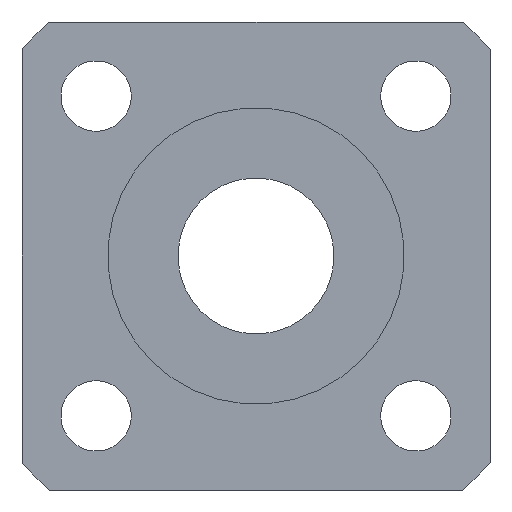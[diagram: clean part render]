
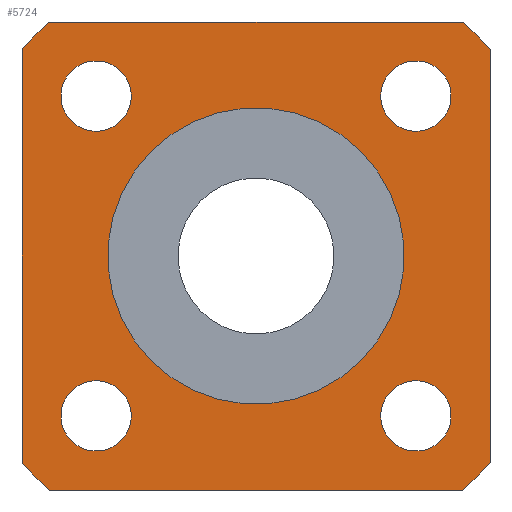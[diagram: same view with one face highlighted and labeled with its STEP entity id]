
A CAD part, left-side view. The second image highlights one B-rep face of the part: STEP entity #5724.
In plain terms, the highlighted planar face has unit normal (-1, 0, 0).
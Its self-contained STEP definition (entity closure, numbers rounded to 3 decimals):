
#109=CIRCLE('',#6074,20.);
#110=CIRCLE('',#6076,20.);
#111=CIRCLE('',#6078,20.);
#121=CIRCLE('',#6093,9.5);
#123=CIRCLE('',#6098,20.);
#124=CIRCLE('',#6099,2.25);
#125=CIRCLE('',#6100,2.25);
#126=CIRCLE('',#6101,2.25);
#127=CIRCLE('',#6102,2.25);
#536=ORIENTED_EDGE('',*,*,#2184,.T.);
#537=ORIENTED_EDGE('',*,*,#2167,.F.);
#538=ORIENTED_EDGE('',*,*,#2185,.T.);
#539=ORIENTED_EDGE('',*,*,#2170,.F.);
#540=ORIENTED_EDGE('',*,*,#2186,.T.);
#541=ORIENTED_EDGE('',*,*,#2187,.F.);
#542=ORIENTED_EDGE('',*,*,#2188,.T.);
#543=ORIENTED_EDGE('',*,*,#2165,.F.);
#544=ORIENTED_EDGE('',*,*,#2189,.T.);
#545=ORIENTED_EDGE('',*,*,#2190,.T.);
#546=ORIENTED_EDGE('',*,*,#2191,.T.);
#547=ORIENTED_EDGE('',*,*,#2192,.T.);
#548=ORIENTED_EDGE('',*,*,#2182,.T.);
#2165=EDGE_CURVE('',#2991,#2992,#109,.T.);
#2167=EDGE_CURVE('',#2993,#2994,#110,.T.);
#2170=EDGE_CURVE('',#2995,#2996,#111,.T.);
#2182=EDGE_CURVE('',#3006,#3006,#121,.T.);
#2184=EDGE_CURVE('',#2991,#2994,#3496,.T.);
#2185=EDGE_CURVE('',#2993,#2996,#3497,.T.);
#2186=EDGE_CURVE('',#2995,#3008,#3498,.T.);
#2187=EDGE_CURVE('',#3009,#3008,#123,.T.);
#2188=EDGE_CURVE('',#3009,#2992,#3499,.T.);
#2189=EDGE_CURVE('',#3010,#3010,#124,.T.);
#2190=EDGE_CURVE('',#3011,#3011,#125,.T.);
#2191=EDGE_CURVE('',#3012,#3012,#126,.T.);
#2192=EDGE_CURVE('',#3013,#3013,#127,.T.);
#2991=VERTEX_POINT('',#9000);
#2992=VERTEX_POINT('',#9002);
#2993=VERTEX_POINT('',#9006);
#2994=VERTEX_POINT('',#9007);
#2995=VERTEX_POINT('',#9012);
#2996=VERTEX_POINT('',#9013);
#3006=VERTEX_POINT('',#9040);
#3008=VERTEX_POINT('',#9049);
#3009=VERTEX_POINT('',#9051);
#3010=VERTEX_POINT('',#9054);
#3011=VERTEX_POINT('',#9056);
#3012=VERTEX_POINT('',#9058);
#3013=VERTEX_POINT('',#9060);
#3496=LINE('',#9046,#4169);
#3497=LINE('',#9047,#4170);
#3498=LINE('',#9048,#4171);
#3499=LINE('',#9052,#4172);
#4169=VECTOR('',#6650,1000.);
#4170=VECTOR('',#6651,1000.);
#4171=VECTOR('',#6652,1000.);
#4172=VECTOR('',#6655,1000.);
#4699=EDGE_LOOP('',(#536,#537,#538,#539,#540,#541,#542,#543));
#4700=EDGE_LOOP('',(#544));
#4701=EDGE_LOOP('',(#545));
#4702=EDGE_LOOP('',(#546));
#4703=EDGE_LOOP('',(#547));
#4704=EDGE_LOOP('',(#548));
#5108=FACE_BOUND('',#4699,.T.);
#5109=FACE_BOUND('',#4700,.T.);
#5110=FACE_BOUND('',#4701,.T.);
#5111=FACE_BOUND('',#4702,.T.);
#5112=FACE_BOUND('',#4703,.T.);
#5113=FACE_BOUND('',#4704,.T.);
#5462=PLANE('',#6097);
#5724=ADVANCED_FACE('',(#5108,#5109,#5110,#5111,#5112,#5113),#5462,.F.);
#6074=AXIS2_PLACEMENT_3D('',#9001,#6597,#6598);
#6076=AXIS2_PLACEMENT_3D('',#9005,#6602,#6603);
#6078=AXIS2_PLACEMENT_3D('',#9011,#6608,#6609);
#6093=AXIS2_PLACEMENT_3D('',#9039,#6640,#6641);
#6097=AXIS2_PLACEMENT_3D('',#9045,#6648,#6649);
#6098=AXIS2_PLACEMENT_3D('',#9050,#6653,#6654);
#6099=AXIS2_PLACEMENT_3D('',#9053,#6656,#6657);
#6100=AXIS2_PLACEMENT_3D('',#9055,#6658,#6659);
#6101=AXIS2_PLACEMENT_3D('',#9057,#6660,#6661);
#6102=AXIS2_PLACEMENT_3D('',#9059,#6662,#6663);
#6597=DIRECTION('',(1.,0.,0.));
#6598=DIRECTION('',(0.,0.707,-0.707));
#6602=DIRECTION('',(1.,0.,0.));
#6603=DIRECTION('',(0.,0.707,-0.707));
#6608=DIRECTION('',(1.,0.,0.));
#6609=DIRECTION('',(0.,0.707,-0.707));
#6640=DIRECTION('',(1.,0.,0.));
#6641=DIRECTION('',(0.,0.707,-0.707));
#6648=DIRECTION('',(1.,0.,0.));
#6649=DIRECTION('',(0.,0.707,-0.707));
#6650=DIRECTION('',(0.,0.,1.));
#6651=DIRECTION('',(0.,1.,0.));
#6652=DIRECTION('',(0.,0.,-1.));
#6653=DIRECTION('',(1.,0.,0.));
#6654=DIRECTION('',(0.,0.707,-0.707));
#6655=DIRECTION('',(0.,-1.,0.));
#6656=DIRECTION('',(1.,0.,0.));
#6657=DIRECTION('',(0.,0.707,-0.707));
#6658=DIRECTION('',(1.,0.,0.));
#6659=DIRECTION('',(0.,0.707,-0.707));
#6660=DIRECTION('',(1.,0.,0.));
#6661=DIRECTION('',(0.,0.707,-0.707));
#6662=DIRECTION('',(1.,0.,0.));
#6663=DIRECTION('',(0.,0.707,-0.707));
#9000=CARTESIAN_POINT('',(21.5,-15.,-13.229));
#9001=CARTESIAN_POINT('',(21.5,0.,0.));
#9002=CARTESIAN_POINT('',(21.5,-13.229,-15.));
#9005=CARTESIAN_POINT('',(21.5,0.,0.));
#9006=CARTESIAN_POINT('',(21.5,-13.229,15.));
#9007=CARTESIAN_POINT('',(21.5,-15.,13.229));
#9011=CARTESIAN_POINT('',(21.5,0.,0.));
#9012=CARTESIAN_POINT('',(21.5,15.,13.229));
#9013=CARTESIAN_POINT('',(21.5,13.229,15.));
#9039=CARTESIAN_POINT('',(21.5,0.,0.));
#9040=CARTESIAN_POINT('',(21.5,6.718,-6.718));
#9045=CARTESIAN_POINT('',(21.5,0.,0.));
#9046=CARTESIAN_POINT('',(21.5,-15.,15.));
#9047=CARTESIAN_POINT('',(21.5,15.,15.));
#9048=CARTESIAN_POINT('',(21.5,15.,-15.));
#9049=CARTESIAN_POINT('',(21.5,15.,-13.229));
#9050=CARTESIAN_POINT('',(21.5,0.,0.));
#9051=CARTESIAN_POINT('',(21.5,13.229,-15.));
#9052=CARTESIAN_POINT('',(21.5,-15.,-15.));
#9053=CARTESIAN_POINT('',(21.5,10.253,-10.253));
#9054=CARTESIAN_POINT('',(21.5,11.844,-11.844));
#9055=CARTESIAN_POINT('',(21.5,-10.253,-10.253));
#9056=CARTESIAN_POINT('',(21.5,-8.662,-11.844));
#9057=CARTESIAN_POINT('',(21.5,-10.253,10.253));
#9058=CARTESIAN_POINT('',(21.5,-8.662,8.662));
#9059=CARTESIAN_POINT('',(21.5,10.253,10.253));
#9060=CARTESIAN_POINT('',(21.5,11.844,8.662));
